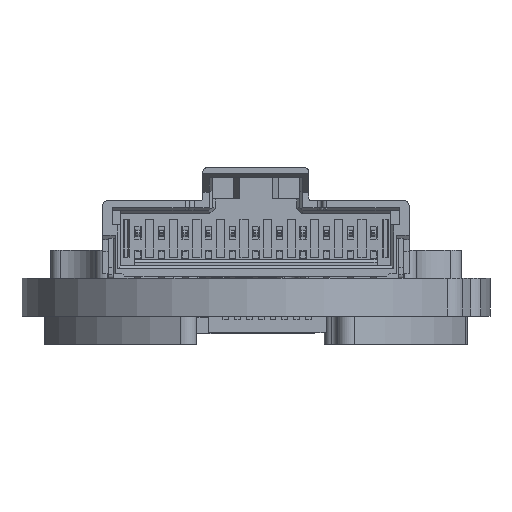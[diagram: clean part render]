
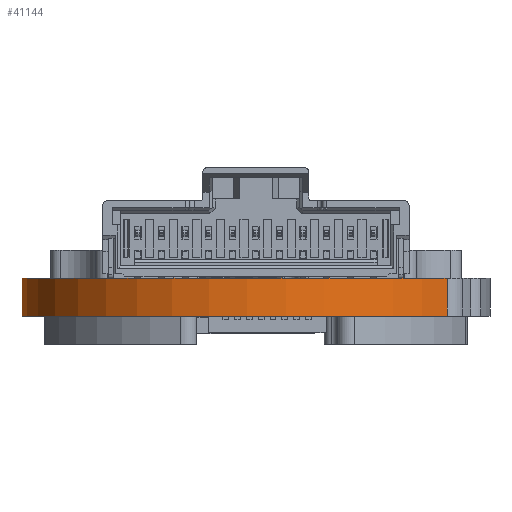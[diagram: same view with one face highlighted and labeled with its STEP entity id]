
A CAD part, front view. The second image highlights one B-rep face of the part: STEP entity #41144.
In plain terms, the highlighted cylindrical face has radius 9.925 mm (diameter 19.85 mm), a partial arc.
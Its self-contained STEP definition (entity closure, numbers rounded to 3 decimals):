
#1104 = CARTESIAN_POINT ( 'NONE',  ( -3.031, 14.269, -1.6 ) ) ;
#3776 = AXIS2_PLACEMENT_3D ( 'NONE', #11678, #70245, #12716 ) ;
#4490 = CARTESIAN_POINT ( 'NONE',  ( 6.5, 11.5, 0. ) ) ;
#7190 = DIRECTION ( 'NONE',  ( 0., 0., 1. ) ) ;
#7196 = CARTESIAN_POINT ( 'NONE',  ( 14.605, 5.772, 0. ) ) ;
#10112 = EDGE_LOOP ( 'NONE', ( #103740, #17906, #26238, #28554 ) ) ;
#11678 = CARTESIAN_POINT ( 'NONE',  ( 6.5, 11.5, -1.6 ) ) ;
#12716 = DIRECTION ( 'NONE',  ( 1., 0., 0. ) ) ;
#14864 = EDGE_CURVE ( 'NONE', #35472, #83463, #79293, .T. ) ;
#15164 = AXIS2_PLACEMENT_3D ( 'NONE', #86705, #71655, #47480 ) ;
#15257 = LINE ( 'NONE', #48089, #32516 ) ;
#17720 = VERTEX_POINT ( 'NONE', #7196 ) ;
#17906 = ORIENTED_EDGE ( 'NONE', *, *, #79622, .T. ) ;
#19002 = CYLINDRICAL_SURFACE ( 'NONE', #15164, 9.925 ) ;
#20197 = CIRCLE ( 'NONE', #30487, 9.925 ) ;
#26238 = ORIENTED_EDGE ( 'NONE', *, *, #32975, .F. ) ;
#28164 = DIRECTION ( 'NONE',  ( 0., 0., 1. ) ) ;
#28554 = ORIENTED_EDGE ( 'NONE', *, *, #104455, .F. ) ;
#30487 = AXIS2_PLACEMENT_3D ( 'NONE', #4490, #28164, #102854 ) ;
#32516 = VECTOR ( 'NONE', #7190, 1000. ) ;
#32975 = EDGE_CURVE ( 'NONE', #86236, #17720, #20197, .T. ) ;
#35472 = VERTEX_POINT ( 'NONE', #78976 ) ;
#41144 = ADVANCED_FACE ( 'NONE', ( #94251 ), #19002, .T. ) ;
#41980 = DIRECTION ( 'NONE',  ( 0., 0., 1. ) ) ;
#47480 = DIRECTION ( 'NONE',  ( 1., 0., 0. ) ) ;
#48089 = CARTESIAN_POINT ( 'NONE',  ( 14.605, 5.772, -1.6 ) ) ;
#66582 = CARTESIAN_POINT ( 'NONE',  ( 14.605, 5.772, -1.6 ) ) ;
#70245 = DIRECTION ( 'NONE',  ( 0., 0., 1. ) ) ;
#71655 = DIRECTION ( 'NONE',  ( 0., 0., -1. ) ) ;
#74960 = CARTESIAN_POINT ( 'NONE',  ( -3.031, 14.269, 0. ) ) ;
#78976 = CARTESIAN_POINT ( 'NONE',  ( -3.031, 14.269, -1.6 ) ) ;
#79293 = CIRCLE ( 'NONE', #3776, 9.925 ) ;
#79622 = EDGE_CURVE ( 'NONE', #83463, #17720, #15257, .T. ) ;
#81559 = VECTOR ( 'NONE', #41980, 1000. ) ;
#82795 = LINE ( 'NONE', #1104, #81559 ) ;
#83463 = VERTEX_POINT ( 'NONE', #66582 ) ;
#86236 = VERTEX_POINT ( 'NONE', #74960 ) ;
#86705 = CARTESIAN_POINT ( 'NONE',  ( 6.5, 11.5, -1.6 ) ) ;
#94251 = FACE_OUTER_BOUND ( 'NONE', #10112, .T. ) ;
#102854 = DIRECTION ( 'NONE',  ( 1., 0., 0. ) ) ;
#103740 = ORIENTED_EDGE ( 'NONE', *, *, #14864, .T. ) ;
#104455 = EDGE_CURVE ( 'NONE', #35472, #86236, #82795, .T. ) ;
